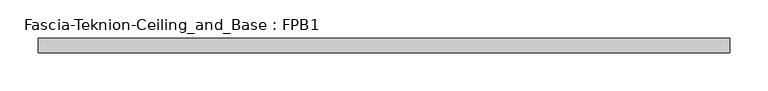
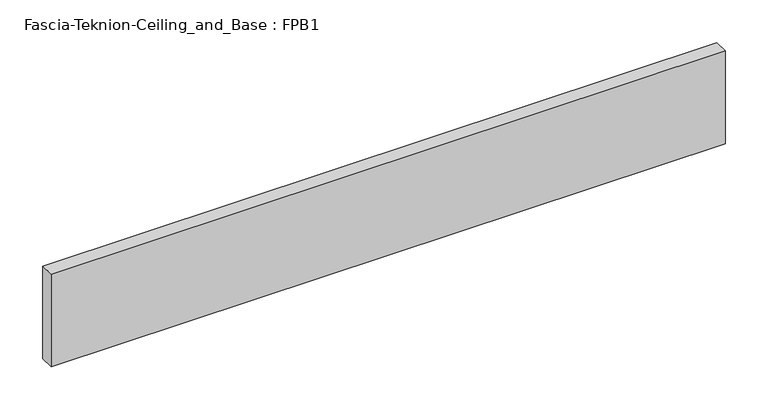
"""IFC4 building model written with IfcOpenShell, lengths in millimetres: proxy geometry, Fascia-Teknion-Ceiling_and_Base : FPB1."""

from ifc_helpers import new_model, si_unit, origin, origin_with_axes, place, context, project, spatial, polyline, outline, extrude, source, transform, mapped, element, save


def fascia_teknion_ceiling_and_base_fpb1_707b8d37(model_context):
    return source(origin(), model_context, "Body", "SweptSolid", [
        extrude(outline(polyline([(454.0305563, 0.0), (454.0305563, -19.05), (-454.0305562, -19.05), (-454.0305562, 0.0), (454.0305563, 0.0)])), origin_with_axes(), (0.0, 0.0, 1.0), 132.08),
    ])


if __name__ == "__main__":
    model = new_model("IFC4")
    model_context = context("Model", 3, world=origin())
    ifc_project = project(units=[si_unit("LENGTHUNIT", "METRE", prefix="MILLI")], contexts=[model_context])
    site = spatial("IfcSite", under=ifc_project)
    building = spatial("IfcBuilding", under=site)
    placement = place(None, origin())
    fascia_teknion_ceiling_and_base_fpb1_shape = fascia_teknion_ceiling_and_base_fpb1_707b8d37(model_context)
    element("IfcBuildingElementProxy", 1, Name="Fascia-Teknion-Ceiling_and_Base : FPB1", ObjectType="Fascia-Teknion-Ceiling_and_Base : FPB1", at=placement, inside=building, context=model_context, shape_type="MappedRepresentation", body=[
        mapped(fascia_teknion_ceiling_and_base_fpb1_shape, transform((0.0, 0.0, 0.0), x_axis=(1.0, 0.0, 0.0), y_axis=(0.0, 1.0, 0.0), z_axis=(0.0, 0.0, 1.0))),
    ])
    save(model, "model.ifc")
